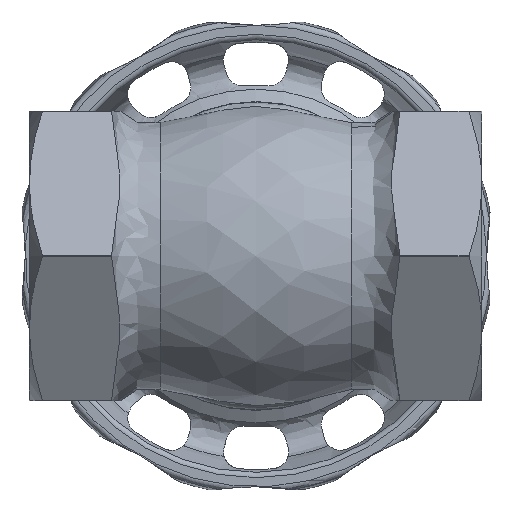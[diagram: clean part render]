
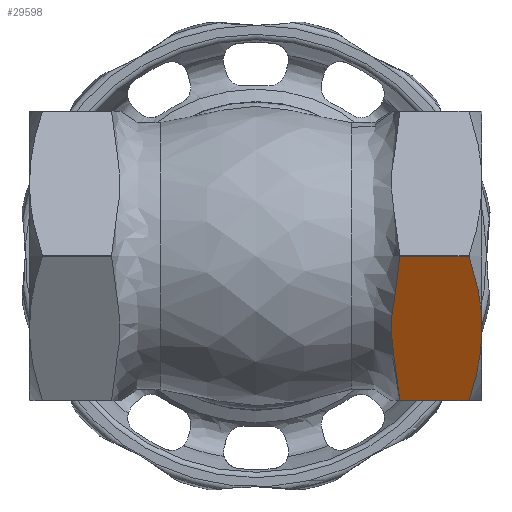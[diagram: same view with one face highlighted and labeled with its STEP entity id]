
A CAD part, front view. The second image highlights one B-rep face of the part: STEP entity #29598.
In plain terms, the highlighted planar face has unit normal (0, -0.866, -0.5).
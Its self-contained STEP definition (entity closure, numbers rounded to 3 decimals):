
#28540=CARTESIAN_POINT('',(50.5,-11.403,-19.749));
#28541=VERTEX_POINT('',#28540);
#28549=CARTESIAN_POINT('',(50.5,-22.805,-0.001));
#28550=VERTEX_POINT('',#28549);
#28551=CARTESIAN_POINT('',(50.5,-11.403,-19.749));
#28552=CARTESIAN_POINT('',(50.488,-11.813,-19.039));
#28553=CARTESIAN_POINT('',(50.42,-12.266,-18.254));
#28554=CARTESIAN_POINT('',(50.325,-12.693,-17.514));
#28555=CARTESIAN_POINT('',(50.292,-12.844,-17.253));
#28556=CARTESIAN_POINT('',(50.255,-12.992,-16.997));
#28557=CARTESIAN_POINT('',(50.218,-13.134,-16.752));
#28558=CARTESIAN_POINT('',(50.192,-13.233,-16.58));
#28559=CARTESIAN_POINT('',(50.165,-13.331,-16.41));
#28560=CARTESIAN_POINT('',(50.137,-13.431,-16.236));
#28561=CARTESIAN_POINT('',(49.926,-14.178,-14.942));
#28562=CARTESIAN_POINT('',(49.643,-14.997,-13.524));
#28563=CARTESIAN_POINT('',(49.483,-15.793,-12.146));
#28564=CARTESIAN_POINT('',(49.418,-16.122,-11.576));
#28565=CARTESIAN_POINT('',(49.373,-16.447,-11.013));
#28566=CARTESIAN_POINT('',(49.355,-16.761,-10.469));
#28567=CARTESIAN_POINT('',(49.348,-16.896,-10.235));
#28568=CARTESIAN_POINT('',(49.345,-17.028,-10.006));
#28569=CARTESIAN_POINT('',(49.346,-17.16,-9.778));
#28570=CARTESIAN_POINT('',(49.35,-17.603,-9.01));
#28571=CARTESIAN_POINT('',(49.409,-18.075,-8.193));
#28572=CARTESIAN_POINT('',(49.512,-18.552,-7.366));
#28573=CARTESIAN_POINT('',(49.668,-19.275,-6.115));
#28574=CARTESIAN_POINT('',(49.917,-20.011,-4.839));
#28575=CARTESIAN_POINT('',(50.113,-20.692,-3.66));
#28576=CARTESIAN_POINT('',(50.144,-20.804,-3.467));
#28577=CARTESIAN_POINT('',(50.175,-20.914,-3.277));
#28578=CARTESIAN_POINT('',(50.204,-21.022,-3.089));
#28579=CARTESIAN_POINT('',(50.23,-21.121,-2.917));
#28580=CARTESIAN_POINT('',(50.257,-21.225,-2.738));
#28581=CARTESIAN_POINT('',(50.282,-21.33,-2.555));
#28582=CARTESIAN_POINT('',(50.384,-21.75,-1.828));
#28583=CARTESIAN_POINT('',(50.466,-22.206,-1.038));
#28584=CARTESIAN_POINT('',(50.492,-22.629,-0.306));
#28585=CARTESIAN_POINT('',(50.496,-22.688,-0.203));
#28586=CARTESIAN_POINT('',(50.498,-22.747,-0.101));
#28587=CARTESIAN_POINT('',(50.5,-22.805,-0.001));
#28588=B_SPLINE_CURVE_WITH_KNOTS('',3,(#28551,#28552,#28553,#28554,#28555,#28556,#28557,#28558,#28559,#28560,#28561,#28562,#28563,#28564,#28565,#28566,#28567,#28568,#28569,#28570,#28571,#28572,#28573,#28574,#28575,#28576,#28577,#28578,#28579,#28580,#28581,#28582,#28583,#28584,#28585,#28586,#28587),.UNSPECIFIED.,.F.,.U.,(4,3,3,3,3,3,3,3,3,3,3,3,4),(-1.076,-0.836,-0.752,-0.692,-0.25,-0.068,0.011,0.276,0.676,0.741,0.802,1.042,1.076),.UNSPECIFIED.);
#28589=EDGE_CURVE('',#28541,#28550,#28588,.T.);
#29546=CARTESIAN_POINT('',(61.7,-22.805,0.));
#29547=DIRECTION('',(0.0,-0.866,-0.5));
#29548=DIRECTION('',(-1.0,0.0,0.0));
#29549=AXIS2_PLACEMENT_3D('',#29546,#29547,#29548);
#29550=PLANE('',#29549);
#29551=CARTESIAN_POINT('',(61.7,-17.104,-9.875));
#29552=VERTEX_POINT('',#29551);
#29553=CARTESIAN_POINT('',(59.936,-11.403,-19.749));
#29554=VERTEX_POINT('',#29553);
#29555=CARTESIAN_POINT('',(61.7,-17.104,-9.875));
#29556=CARTESIAN_POINT('',(61.7,-14.458,-14.458));
#29557=CARTESIAN_POINT('',(59.936,-11.403,-19.749));
#29565=(BOUNDED_CURVE()B_SPLINE_CURVE(2,(#29555,#29556,#29557),.UNSPECIFIED.,.F.,.U.)B_SPLINE_CURVE_WITH_KNOTS((3,3),(1.157,2.313),.UNSPECIFIED.)CURVE()GEOMETRIC_REPRESENTATION_ITEM()RATIONAL_B_SPLINE_CURVE((1.0,1.038,1.0))REPRESENTATION_ITEM(''));
#29566=EDGE_CURVE('',#29552,#29554,#29565,.T.);
#29567=ORIENTED_EDGE('',*,*,#29566,.F.);
#29568=CARTESIAN_POINT('',(59.936,-22.805,-0.001));
#29569=VERTEX_POINT('',#29568);
#29570=CARTESIAN_POINT('',(59.936,-22.805,-0.001));
#29571=CARTESIAN_POINT('',(61.7,-19.75,-5.292));
#29572=CARTESIAN_POINT('',(61.7,-17.104,-9.875));
#29580=(BOUNDED_CURVE()B_SPLINE_CURVE(2,(#29570,#29571,#29572),.UNSPECIFIED.,.F.,.U.)B_SPLINE_CURVE_WITH_KNOTS((3,3),(0.0,1.157),.UNSPECIFIED.)CURVE()GEOMETRIC_REPRESENTATION_ITEM()RATIONAL_B_SPLINE_CURVE((1.0,1.038,1.0))REPRESENTATION_ITEM(''));
#29581=EDGE_CURVE('',#29569,#29552,#29580,.T.);
#29582=ORIENTED_EDGE('',*,*,#29581,.F.);
#29583=CARTESIAN_POINT('',(50.5,-22.805,-0.001));
#29584=DIRECTION('',(1.0,0.0,0.0));
#29585=VECTOR('',#29584,9.436);
#29586=LINE('',#29583,#29585);
#29587=EDGE_CURVE('',#28550,#29569,#29586,.T.);
#29588=ORIENTED_EDGE('',*,*,#29587,.F.);
#29589=ORIENTED_EDGE('',*,*,#28589,.F.);
#29590=CARTESIAN_POINT('',(59.936,-11.403,-19.749));
#29591=DIRECTION('',(-1.0,0.0,0.0));
#29592=VECTOR('',#29591,9.436);
#29593=LINE('',#29590,#29592);
#29594=EDGE_CURVE('',#29554,#28541,#29593,.T.);
#29595=ORIENTED_EDGE('',*,*,#29594,.F.);
#29596=EDGE_LOOP('',(#29567,#29582,#29588,#29589,#29595));
#29597=FACE_OUTER_BOUND('',#29596,.T.);
#29598=ADVANCED_FACE('',(#29597),#29550,.T.);
